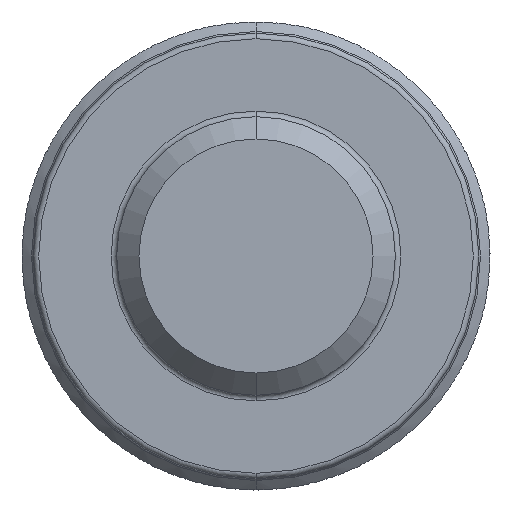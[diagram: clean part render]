
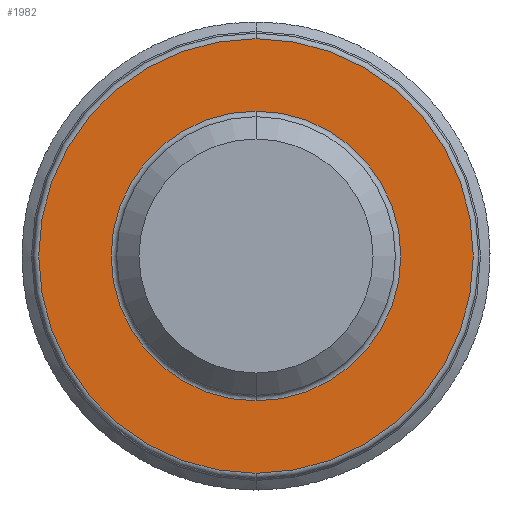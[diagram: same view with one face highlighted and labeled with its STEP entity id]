
A CAD part, front view. The second image highlights one B-rep face of the part: STEP entity #1982.
In plain terms, the highlighted planar face has unit normal (0, -1, 0).
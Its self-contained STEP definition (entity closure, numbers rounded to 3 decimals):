
#148 = VERTEX_POINT ( 'NONE', #1169 ) ;
#322 = DIRECTION ( 'NONE',  ( 0., 0., -1. ) ) ;
#475 = DIRECTION ( 'NONE',  ( 0., -1., 0. ) ) ;
#536 = CARTESIAN_POINT ( 'NONE',  ( 0., -5., 3.9 ) ) ;
#961 = EDGE_CURVE ( 'NONE', #148, #1244, #1414, .T. ) ;
#993 = VERTEX_POINT ( 'NONE', #536 ) ;
#1167 = AXIS2_PLACEMENT_3D ( 'NONE', #8129, #475, #1789 ) ;
#1169 = CARTESIAN_POINT ( 'NONE',  ( 0., -5., 2.6 ) ) ;
#1190 = AXIS2_PLACEMENT_3D ( 'NONE', #5526, #2858, #1513 ) ;
#1244 = VERTEX_POINT ( 'NONE', #4750 ) ;
#1414 = CIRCLE ( 'NONE', #4380, 2.6 ) ;
#1513 = DIRECTION ( 'NONE',  ( 0., 0., -1. ) ) ;
#1608 = DIRECTION ( 'NONE',  ( 0., 0., -1. ) ) ;
#1671 = ORIENTED_EDGE ( 'NONE', *, *, #961, .T. ) ;
#1789 = DIRECTION ( 'NONE',  ( 0., 0., -1. ) ) ;
#1982 = ADVANCED_FACE ( 'NONE', ( #6262, #4238 ), #2297, .T. ) ;
#2199 = DIRECTION ( 'NONE',  ( 0., -1., 0. ) ) ;
#2297 = PLANE ( 'NONE',  #1167 ) ;
#2406 = EDGE_CURVE ( 'NONE', #1244, #148, #2675, .T. ) ;
#2628 = AXIS2_PLACEMENT_3D ( 'NONE', #2861, #2731, #5316 ) ;
#2675 = CIRCLE ( 'NONE', #1190, 2.6 ) ;
#2731 = DIRECTION ( 'NONE',  ( 0., -1., 0. ) ) ;
#2858 = DIRECTION ( 'NONE',  ( 0., 1., 0. ) ) ;
#2861 = CARTESIAN_POINT ( 'NONE',  ( 0., -5., 0. ) ) ;
#2910 = CIRCLE ( 'NONE', #5326, 3.9 ) ;
#3569 = ORIENTED_EDGE ( 'NONE', *, *, #2406, .T. ) ;
#4095 = VERTEX_POINT ( 'NONE', #7639 ) ;
#4238 = FACE_OUTER_BOUND ( 'NONE', #7382, .T. ) ;
#4380 = AXIS2_PLACEMENT_3D ( 'NONE', #4895, #4815, #322 ) ;
#4687 = ORIENTED_EDGE ( 'NONE', *, *, #5832, .T. ) ;
#4750 = CARTESIAN_POINT ( 'NONE',  ( 0., -5., -2.6 ) ) ;
#4815 = DIRECTION ( 'NONE',  ( 0., 1., 0. ) ) ;
#4866 = CARTESIAN_POINT ( 'NONE',  ( 0., -5., 0. ) ) ;
#4895 = CARTESIAN_POINT ( 'NONE',  ( 0., -5., 0. ) ) ;
#5171 = EDGE_CURVE ( 'NONE', #4095, #993, #8308, .T. ) ;
#5316 = DIRECTION ( 'NONE',  ( 0., 0., -1. ) ) ;
#5326 = AXIS2_PLACEMENT_3D ( 'NONE', #4866, #2199, #1608 ) ;
#5526 = CARTESIAN_POINT ( 'NONE',  ( 0., -5., 0. ) ) ;
#5590 = EDGE_LOOP ( 'NONE', ( #3569, #1671 ) ) ;
#5832 = EDGE_CURVE ( 'NONE', #993, #4095, #2910, .T. ) ;
#6262 = FACE_BOUND ( 'NONE', #5590, .T. ) ;
#7382 = EDGE_LOOP ( 'NONE', ( #7964, #4687 ) ) ;
#7639 = CARTESIAN_POINT ( 'NONE',  ( 0., -5., -3.9 ) ) ;
#7964 = ORIENTED_EDGE ( 'NONE', *, *, #5171, .T. ) ;
#8129 = CARTESIAN_POINT ( 'NONE',  ( 2.5, -5., 0. ) ) ;
#8308 = CIRCLE ( 'NONE', #2628, 3.9 ) ;
